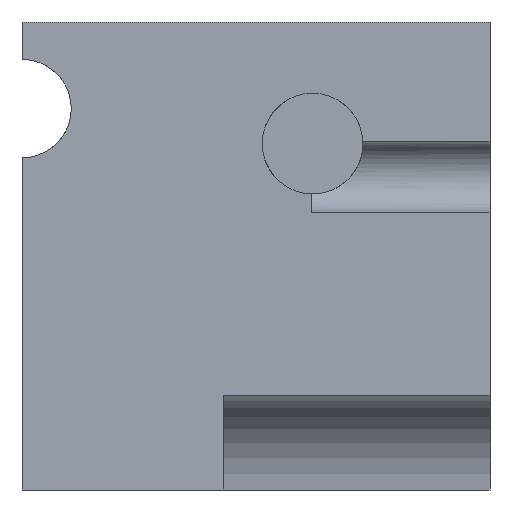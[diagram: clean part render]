
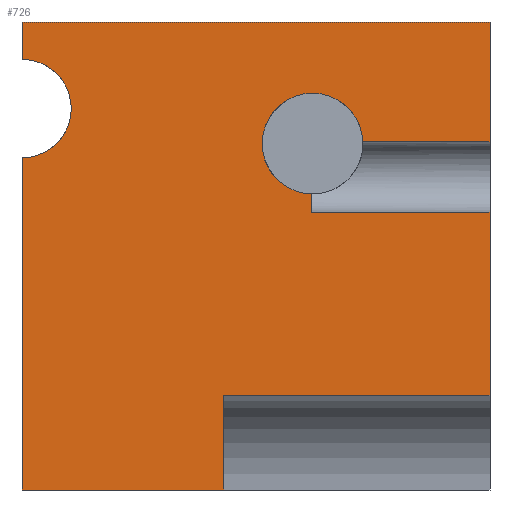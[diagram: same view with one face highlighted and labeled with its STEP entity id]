
A CAD part, left-side view. The second image highlights one B-rep face of the part: STEP entity #726.
In plain terms, the highlighted planar face has unit normal (-1, 0, 0).
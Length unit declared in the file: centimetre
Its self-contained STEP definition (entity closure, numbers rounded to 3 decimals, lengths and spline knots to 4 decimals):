
#3 = VERTEX_POINT ( 'NONE', #68 ) ;
#12 = VERTEX_POINT ( 'NONE', #467 ) ;
#15 = DIRECTION ( 'NONE',  ( 0., 0., -1. ) ) ;
#20 = VERTEX_POINT ( 'NONE', #579 ) ;
#24 = DIRECTION ( 'NONE',  ( 0., 0., -1. ) ) ;
#31 = LINE ( 'NONE', #1251, #308 ) ;
#35 = PLANE ( 'NONE',  #677 ) ;
#46 = AXIS2_PLACEMENT_3D ( 'NONE', #448, #242, #1226 ) ;
#47 = ORIENTED_EDGE ( 'NONE', *, *, #868, .F. ) ;
#61 = CIRCLE ( 'NONE', #107, 107.6592 ) ;
#62 = EDGE_CURVE ( 'NONE', #117, #361, #1019, .T. ) ;
#64 = VECTOR ( 'NONE', #1299, 100. ) ;
#68 = CARTESIAN_POINT ( 'NONE',  ( 0., 0., 593.8484 ) ) ;
#72 = VERTEX_POINT ( 'NONE', #1254 ) ;
#107 = AXIS2_PLACEMENT_3D ( 'NONE', #315, #1039, #134 ) ;
#116 = DIRECTION ( 'NONE',  ( 0., -1., 0. ) ) ;
#117 = VERTEX_POINT ( 'NONE', #758 ) ;
#120 = CARTESIAN_POINT ( 'NONE',  ( 0., 1000., 1000. ) ) ;
#121 = ORIENTED_EDGE ( 'NONE', *, *, #698, .T. ) ;
#133 = ORIENTED_EDGE ( 'NONE', *, *, #1275, .T. ) ;
#134 = DIRECTION ( 'NONE',  ( 0., 0., 1. ) ) ;
#144 = LINE ( 'NONE', #1140, #932 ) ;
#148 = LINE ( 'NONE', #343, #458 ) ;
#154 = EDGE_CURVE ( 'NONE', #1091, #1232, #200, .T. ) ;
#200 = LINE ( 'NONE', #310, #440 ) ;
#210 = ORIENTED_EDGE ( 'NONE', *, *, #1274, .T. ) ;
#212 = VERTEX_POINT ( 'NONE', #517 ) ;
#224 = CARTESIAN_POINT ( 'NONE',  ( 0., 1000., 1000. ) ) ;
#226 = VECTOR ( 'NONE', #1138, 100. ) ;
#239 = DIRECTION ( 'NONE',  ( 0., 0., 1. ) ) ;
#242 = DIRECTION ( 'NONE',  ( -1., 0., 0. ) ) ;
#257 = VERTEX_POINT ( 'NONE', #420 ) ;
#259 = VERTEX_POINT ( 'NONE', #408 ) ;
#295 = CARTESIAN_POINT ( 'NONE',  ( 0., 1000., 709.5674 ) ) ;
#308 = VECTOR ( 'NONE', #1035, 100. ) ;
#310 = CARTESIAN_POINT ( 'NONE',  ( 0., 1000., 1000. ) ) ;
#315 = CARTESIAN_POINT ( 'NONE',  ( 0., 379.1043, 740.1463 ) ) ;
#320 = FACE_OUTER_BOUND ( 'NONE', #401, .T. ) ;
#322 = LINE ( 'NONE', #445, #1248 ) ;
#343 = CARTESIAN_POINT ( 'NONE',  ( 0., 569.3178, 202.9648 ) ) ;
#361 = VERTEX_POINT ( 'NONE', #648 ) ;
#382 = EDGE_CURVE ( 'NONE', #3, #909, #144, .T. ) ;
#387 = CARTESIAN_POINT ( 'NONE',  ( 0., 382.0897, 632.5285 ) ) ;
#395 = ORIENTED_EDGE ( 'NONE', *, *, #1276, .F. ) ;
#401 = EDGE_LOOP ( 'NONE', ( #511, #210, #1298, #395, #812, #943, #1215, #133, #583, #490, #121, #47, #936, #426 ) ) ;
#408 = CARTESIAN_POINT ( 'NONE',  ( 0., 569.3178, 202.9648 ) ) ;
#415 = CIRCLE ( 'NONE', #46, 105.3058 ) ;
#420 = CARTESIAN_POINT ( 'NONE',  ( 0., 1000., 1000. ) ) ;
#426 = ORIENTED_EDGE ( 'NONE', *, *, #1165, .T. ) ;
#440 = VECTOR ( 'NONE', #463, 100. ) ;
#442 = DIRECTION ( 'NONE',  ( -1., 0., 0. ) ) ;
#445 = CARTESIAN_POINT ( 'NONE',  ( 0., 382.0897, 593.8484 ) ) ;
#448 = CARTESIAN_POINT ( 'NONE',  ( 0., 1000., 814.8732 ) ) ;
#458 = VECTOR ( 'NONE', #924, 100. ) ;
#463 = DIRECTION ( 'NONE',  ( 0., 0., -1. ) ) ;
#467 = CARTESIAN_POINT ( 'NONE',  ( 0., 1000., 920.179 ) ) ;
#490 = ORIENTED_EDGE ( 'NONE', *, *, #1289, .F. ) ;
#494 = LINE ( 'NONE', #888, #64 ) ;
#504 = LINE ( 'NONE', #1214, #1293 ) ;
#511 = ORIENTED_EDGE ( 'NONE', *, *, #1153, .F. ) ;
#517 = CARTESIAN_POINT ( 'NONE',  ( 0., 0., 744.5302 ) ) ;
#520 = LINE ( 'NONE', #955, #226 ) ;
#530 = DIRECTION ( 'NONE',  ( 0., -1., 0. ) ) ;
#579 = CARTESIAN_POINT ( 'NONE',  ( 0., 569.3178, 0. ) ) ;
#583 = ORIENTED_EDGE ( 'NONE', *, *, #1103, .F. ) ;
#615 = LINE ( 'NONE', #1023, #883 ) ;
#646 = CARTESIAN_POINT ( 'NONE',  ( 0., 1000., 1000. ) ) ;
#648 = CARTESIAN_POINT ( 'NONE',  ( 0., 379.1043, 847.8055 ) ) ;
#676 = CARTESIAN_POINT ( 'NONE',  ( 0., 0., 1000. ) ) ;
#677 = AXIS2_PLACEMENT_3D ( 'NONE', #120, #735, #729 ) ;
#698 = EDGE_CURVE ( 'NONE', #257, #12, #825, .T. ) ;
#702 = AXIS2_PLACEMENT_3D ( 'NONE', #845, #442, #239 ) ;
#726 = ADVANCED_FACE ( 'NONE', ( #320 ), #35, .F. ) ;
#729 = DIRECTION ( 'NONE',  ( 0., 0., -1. ) ) ;
#735 = DIRECTION ( 'NONE',  ( 1., 0., 0. ) ) ;
#741 = EDGE_CURVE ( 'NONE', #361, #1047, #61, .T. ) ;
#745 = LINE ( 'NONE', #646, #1122 ) ;
#747 = VECTOR ( 'NONE', #24, 100. ) ;
#754 = DIRECTION ( 'NONE',  ( 0., -1., 0. ) ) ;
#758 = CARTESIAN_POINT ( 'NONE',  ( 0., 271.5344, 744.5302 ) ) ;
#763 = EDGE_CURVE ( 'NONE', #1047, #72, #31, .T. ) ;
#812 = ORIENTED_EDGE ( 'NONE', *, *, #763, .F. ) ;
#825 = LINE ( 'NONE', #224, #747 ) ;
#828 = CARTESIAN_POINT ( 'NONE',  ( 0., 1000., 0. ) ) ;
#845 = CARTESIAN_POINT ( 'NONE',  ( 0., 379.1043, 740.1463 ) ) ;
#868 = EDGE_CURVE ( 'NONE', #1091, #12, #415, .T. ) ;
#882 = CARTESIAN_POINT ( 'NONE',  ( 0., 0., 202.9648 ) ) ;
#883 = VECTOR ( 'NONE', #116, 100. ) ;
#888 = CARTESIAN_POINT ( 'NONE',  ( 0., 0., 1000. ) ) ;
#909 = VERTEX_POINT ( 'NONE', #882 ) ;
#924 = DIRECTION ( 'NONE',  ( 0., -1., 0. ) ) ;
#925 = VERTEX_POINT ( 'NONE', #676 ) ;
#932 = VECTOR ( 'NONE', #1238, 100. ) ;
#936 = ORIENTED_EDGE ( 'NONE', *, *, #154, .T. ) ;
#943 = ORIENTED_EDGE ( 'NONE', *, *, #741, .F. ) ;
#955 = CARTESIAN_POINT ( 'NONE',  ( 0., 382.0897, 744.5302 ) ) ;
#1019 = CIRCLE ( 'NONE', #702, 107.6592 ) ;
#1023 = CARTESIAN_POINT ( 'NONE',  ( 0., 1000., 0. ) ) ;
#1035 = DIRECTION ( 'NONE',  ( 0., 0., -1. ) ) ;
#1039 = DIRECTION ( 'NONE',  ( -1., 0., 0. ) ) ;
#1047 = VERTEX_POINT ( 'NONE', #387 ) ;
#1091 = VERTEX_POINT ( 'NONE', #295 ) ;
#1103 = EDGE_CURVE ( 'NONE', #925, #212, #494, .T. ) ;
#1122 = VECTOR ( 'NONE', #530, 100. ) ;
#1138 = DIRECTION ( 'NONE',  ( 0., -1., 0. ) ) ;
#1140 = CARTESIAN_POINT ( 'NONE',  ( 0., 0., 1000. ) ) ;
#1153 = EDGE_CURVE ( 'NONE', #259, #20, #504, .T. ) ;
#1165 = EDGE_CURVE ( 'NONE', #1232, #20, #615, .T. ) ;
#1214 = CARTESIAN_POINT ( 'NONE',  ( 0., 569.3178, 1000. ) ) ;
#1215 = ORIENTED_EDGE ( 'NONE', *, *, #62, .F. ) ;
#1226 = DIRECTION ( 'NONE',  ( 0., 0., 1. ) ) ;
#1232 = VERTEX_POINT ( 'NONE', #828 ) ;
#1238 = DIRECTION ( 'NONE',  ( 0., 0., -1. ) ) ;
#1248 = VECTOR ( 'NONE', #754, 100. ) ;
#1251 = CARTESIAN_POINT ( 'NONE',  ( 0., 382.0897, 1000. ) ) ;
#1254 = CARTESIAN_POINT ( 'NONE',  ( 0., 382.0897, 593.8484 ) ) ;
#1274 = EDGE_CURVE ( 'NONE', #259, #909, #148, .T. ) ;
#1275 = EDGE_CURVE ( 'NONE', #117, #212, #520, .T. ) ;
#1276 = EDGE_CURVE ( 'NONE', #72, #3, #322, .T. ) ;
#1289 = EDGE_CURVE ( 'NONE', #257, #925, #745, .T. ) ;
#1293 = VECTOR ( 'NONE', #15, 100. ) ;
#1298 = ORIENTED_EDGE ( 'NONE', *, *, #382, .F. ) ;
#1299 = DIRECTION ( 'NONE',  ( 0., 0., -1. ) ) ;
